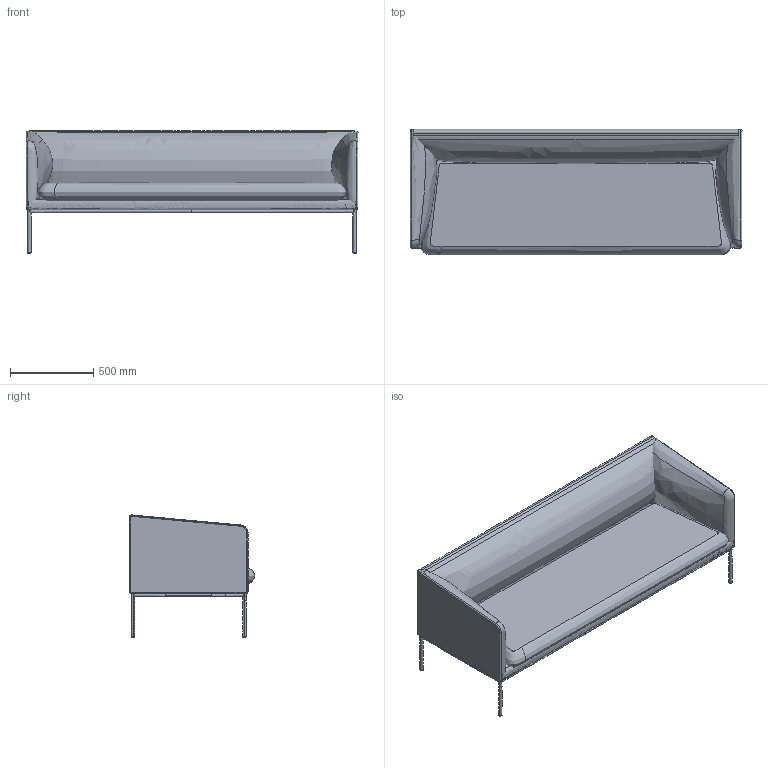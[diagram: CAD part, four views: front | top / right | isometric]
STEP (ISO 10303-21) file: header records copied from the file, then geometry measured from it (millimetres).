
FILE_DESCRIPTION(/* description */ (''),/* implementation_level */ '2;1');
FILE_NAME(/* name */ 'TEG5BC~G',/* time_stamp */ '2018-04-09T12:15:42+02:00',/* author */ (''),/* organization */ (''),/* preprocessor_version */ 'ST-DEVELOPER v15',/* originating_system */ '',/* authorisation */ '');
FILE_SCHEMA (('AUTOMOTIVE_DESIGN'));
Length unit declared in the file: millimetre
Products named in the file (1): Document
Bounding box: 1998.11 x 755.49 x 735.2 mm (x, y, z)
Volume: 314645965.9 mm3; surface area: 9454328.2 mm2
Topology: 13 solids, 26 shells, 220 faces, 516 edges, 336 vertices
Faces by surface type: bspline 220
Entity records: 67593 total; most frequent: CARTESIAN_POINT 61013, B_SPLINE_CURVE_WITH_KNOTS 1402, ORIENTED_EDGE 930, PCURVE 930, DEFINITIONAL_REPRESENTATION 930, SURFACE_CURVE 509, EDGE_CURVE 509, VERTEX_POINT 324
